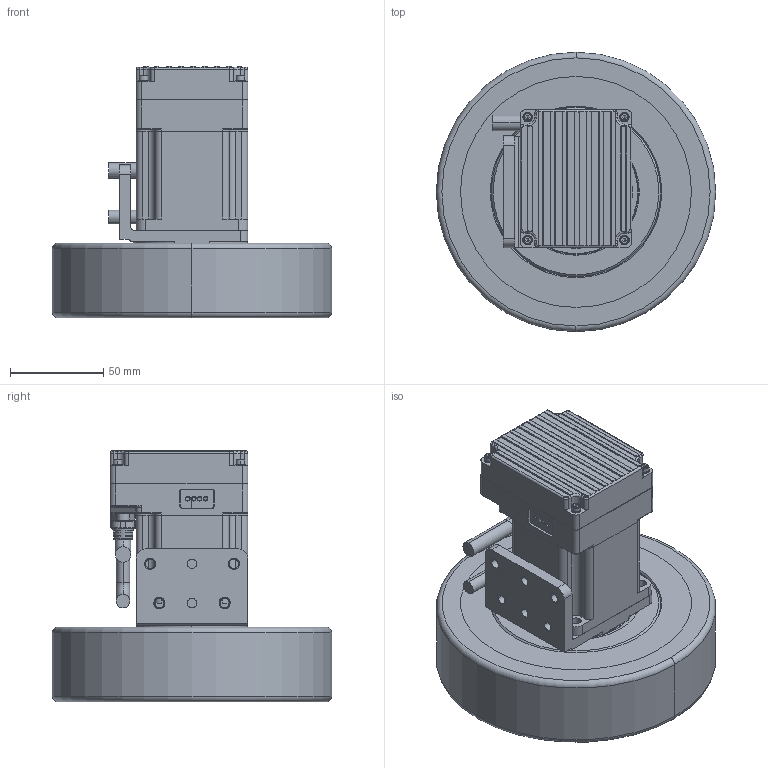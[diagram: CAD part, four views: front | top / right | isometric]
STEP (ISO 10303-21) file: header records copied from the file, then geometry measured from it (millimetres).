
FILE_DESCRIPTION (( 'STEP AP203' ), '1' );
FILE_NAME ('307091375£¨iWMC06006-00450-A150-MADT£©-A.STEP', '2024-10-09T07:26:42', ( '' ), ( '' ), 'SwSTEP 2.0', 'SolidWorks 2023', '' );
FILE_SCHEMA (( 'CONFIG_CONTROL_DESIGN' ));
Length unit declared in the file: millimetre
Products named in the file (1): 307091375（iWMC06006-00450-A150-MADT）-A
Bounding box: 150 x 150 x 135 mm (x, y, z)
Surface area: 228224.2 mm2 (no closed solid volume)
Topology: 0 solids, 82 shells, 2170 faces, 5248 edges, 3242 vertices
Faces by surface type: cylinder 895, plane 780, torus 243, cone 191, bspline 61
Entity records: 69767 total; most frequent: CARTESIAN_POINT 18240, DIRECTION 11361, ORIENTED_EDGE 10290, EDGE_CURVE 5199, AXIS2_PLACEMENT_3D 4436, VERTEX_POINT 3242, VECTOR 2489, LINE 2489
